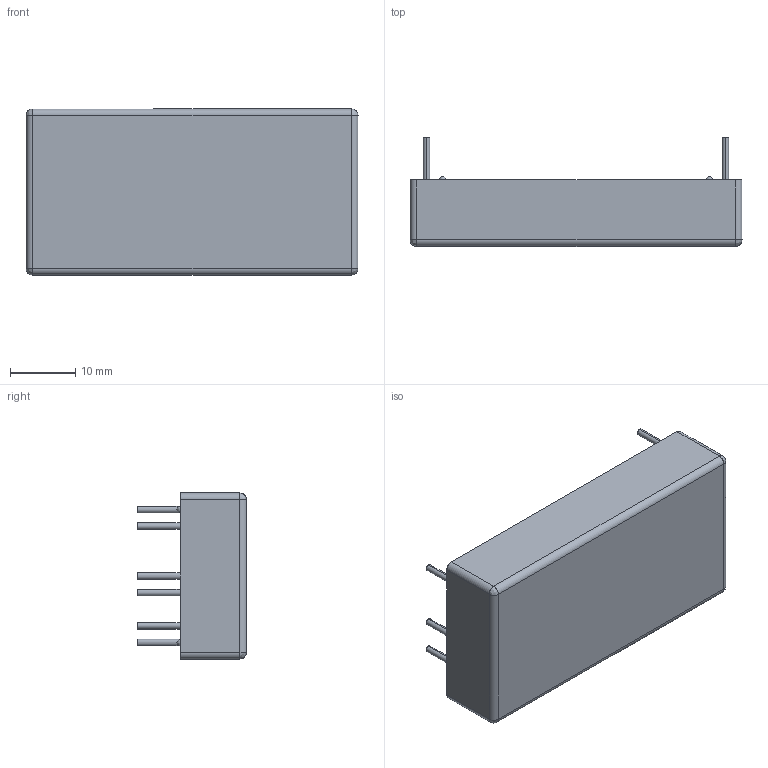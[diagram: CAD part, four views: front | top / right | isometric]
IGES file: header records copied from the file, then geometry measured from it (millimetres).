
Start section: SolidWorks IGES file using analytic representation for surfaces
Global section: file name: C:\Users\ksmith.XPNA\Desktop\Farris CAD\JTL30\JTL30.IGS; native system: SolidWorks 2017; preprocessor: SolidWorks 2017; author: ksmith; date: 170912.114648; units: inch
Bounding box: 50.8 x 16.66 x 25.4 mm (x, y, z)
Surface area: 4170.4 mm2 (no closed solid volume)
Topology: 0 solids, 0 shells, 40 faces, 424 edges, 412 vertices
Faces by surface type: revolution 20, bspline 20
